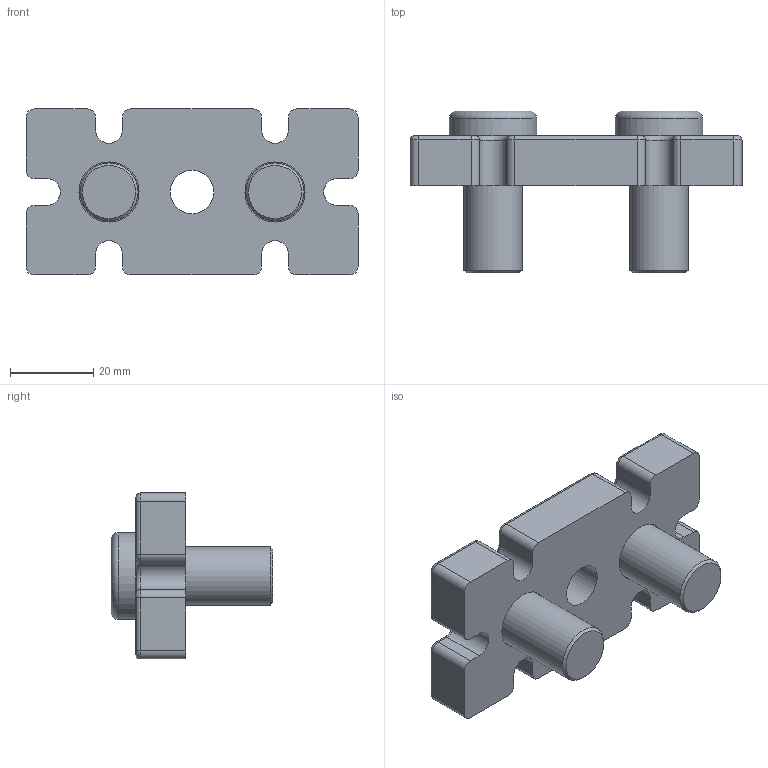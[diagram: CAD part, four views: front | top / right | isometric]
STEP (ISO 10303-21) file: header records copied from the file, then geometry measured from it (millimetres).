
FILE_DESCRIPTION(/* description */ ('Piastra profilo 40x80 per piedino M12 con viti'),/* implementation_level */ '2;1');
FILE_NAME(/* name */ 'C:\Users\Stefan.Nesic\Desktop\01010STEP\MPB40-80M12.stp',/* time_stamp */ '2022-06-17T14:53:54+02:00',/* author */ ('USER'),/* organization */ ('Microsoft'),/* preprocessor_version */ 'ST-DEVELOPER v18.1',/* originating_system */ 'Autodesk Inventor 2021',/* authorisation */ '');
FILE_SCHEMA (('AUTOMOTIVE_DESIGN { 1 0 10303 214 3 1 1 }'));
Length unit declared in the file: millimetre
Products named in the file (1): MPB40-80M12
Bounding box: 80 x 39 x 40 mm (x, y, z)
Surface area: 15467.5 mm2 (no closed solid volume)
Topology: 0 solids, 5 shells, 137 faces, 333 edges, 200 vertices
Faces by surface type: plane 56, cylinder 53, bspline 16, torus 8, cone 4
Full cylindrical faces by diameter (mm): 10.5 x1, 14 x2, 14.5 x2, 21 x2, 21.5 x2
Entity records: 4111 total; most frequent: CARTESIAN_POINT 797, DIRECTION 735, ORIENTED_EDGE 654, EDGE_CURVE 331, AXIS2_PLACEMENT_3D 282, VERTEX_POINT 200, LINE 171, VECTOR 171
